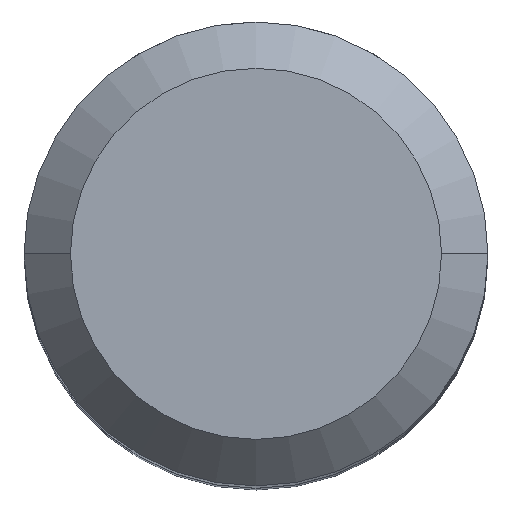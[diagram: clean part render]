
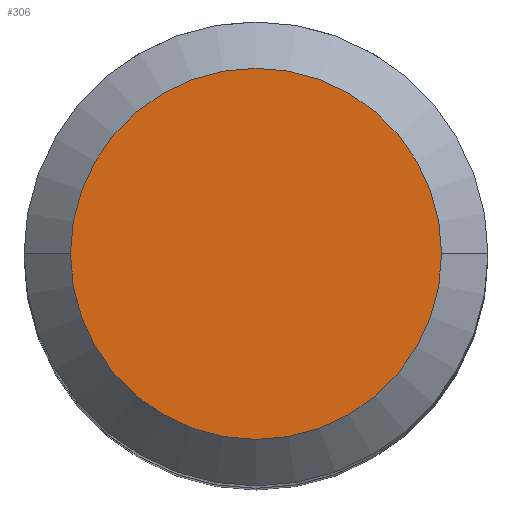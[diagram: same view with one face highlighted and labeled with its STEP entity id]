
A CAD part, top view. The second image highlights one B-rep face of the part: STEP entity #306.
In plain terms, the highlighted planar face has unit normal (0, 0, 1).
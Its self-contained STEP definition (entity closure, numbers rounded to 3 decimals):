
#28 = AXIS2_PLACEMENT_3D ( 'NONE', #302, #43, #614 ) ;
#36 = CIRCLE ( 'NONE', #140, 8. ) ;
#37 = AXIS2_PLACEMENT_3D ( 'NONE', #558, #202, #547 ) ;
#43 = DIRECTION ( 'NONE',  ( 0., 0., 1. ) ) ;
#55 = DIRECTION ( 'NONE',  ( 0., 0., -1. ) ) ;
#95 = FACE_OUTER_BOUND ( 'NONE', #287, .T. ) ;
#106 = PLANE ( 'NONE',  #28 ) ;
#140 = AXIS2_PLACEMENT_3D ( 'NONE', #565, #55, #197 ) ;
#192 = CIRCLE ( 'NONE', #37, 8. ) ;
#197 = DIRECTION ( 'NONE',  ( -1., 0., 0. ) ) ;
#202 = DIRECTION ( 'NONE',  ( 0., 0., -1. ) ) ;
#243 = VERTEX_POINT ( 'NONE', #541 ) ;
#287 = EDGE_LOOP ( 'NONE', ( #502, #336 ) ) ;
#302 = CARTESIAN_POINT ( 'NONE',  ( 0., 8., 0. ) ) ;
#306 = ADVANCED_FACE ( 'NONE', ( #95 ), #106, .T. ) ;
#336 = ORIENTED_EDGE ( 'NONE', *, *, #532, .F. ) ;
#362 = EDGE_CURVE ( 'NONE', #626, #243, #36, .T. ) ;
#485 = CARTESIAN_POINT ( 'NONE',  ( -8., 0., 0. ) ) ;
#502 = ORIENTED_EDGE ( 'NONE', *, *, #362, .F. ) ;
#532 = EDGE_CURVE ( 'NONE', #243, #626, #192, .T. ) ;
#541 = CARTESIAN_POINT ( 'NONE',  ( 8., 0., 0. ) ) ;
#547 = DIRECTION ( 'NONE',  ( -1., 0., 0. ) ) ;
#558 = CARTESIAN_POINT ( 'NONE',  ( 0., 0., 0. ) ) ;
#565 = CARTESIAN_POINT ( 'NONE',  ( 0., 0., 0. ) ) ;
#614 = DIRECTION ( 'NONE',  ( 1., 0., 0. ) ) ;
#626 = VERTEX_POINT ( 'NONE', #485 ) ;
